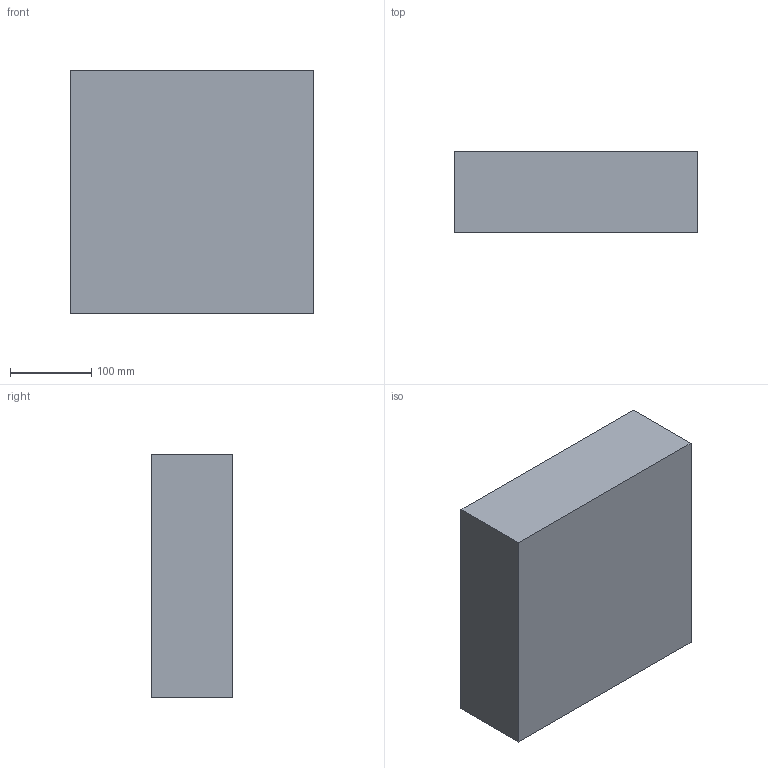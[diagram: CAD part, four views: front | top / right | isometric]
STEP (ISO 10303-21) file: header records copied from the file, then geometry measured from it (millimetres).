
FILE_DESCRIPTION(/* description */ (''),/* implementation_level */ '2;1');
FILE_NAME(/* name */ 'C:/Users/LukasGröber/GMS Cloud/Groeber Mannheim Lichtwerke - Dokumente/Marketing/Produkte/3D Daten/Wandleuchte Eifel im Herbst/Wandleuchte Eifel im Herbst 30x30.step',/* time_stamp */ '2022-07-11T09:45:00+02:00',/* author */ (''),/* organization */ (''),/* preprocessor_version */ 'ST-DEVELOPER v19',/* originating_system */ 'Autodesk Translation Framework v11.7.0.108',/* authorisation */ '');
FILE_SCHEMA (('AUTOMOTIVE_DESIGN { 1 0 10303 214 3 1 1 }'));
Length unit declared in the file: millimetre
Products named in the file (1): Wandleuchte Eifel im Herbst 30x30
Bounding box: 300 x 100 x 300 mm (x, y, z)
Volume: 9000000 mm3; surface area: 300000 mm2
Topology: 1 solids, 1 shells, 6 faces, 12 edges, 8 vertices
Faces by surface type: plane 6
Entity records: 204 total; most frequent: CARTESIAN_POINT 27, DIRECTION 26, ORIENTED_EDGE 24, LINE 12, VECTOR 12, EDGE_CURVE 12, VERTEX_POINT 8, AXIS2_PLACEMENT_3D 7
